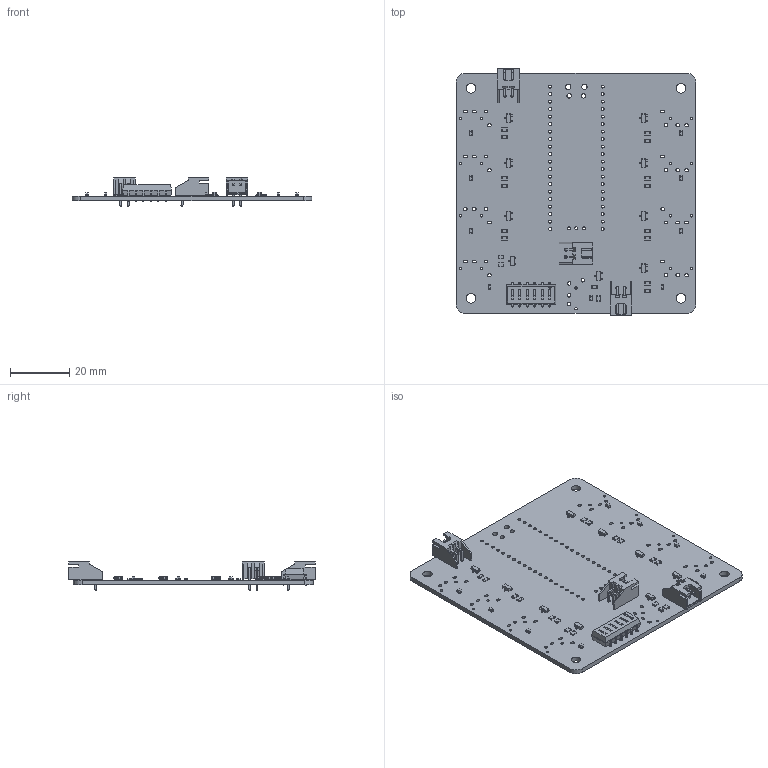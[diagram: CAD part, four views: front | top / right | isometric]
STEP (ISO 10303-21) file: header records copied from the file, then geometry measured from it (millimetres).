
FILE_DESCRIPTION(('KiCad electronic assembly'),'2;1');
FILE_NAME('Motherbuzz-S DIP.step','2024-12-31T19:02:52',('Pcbnew'),( 'Kicad'),'Open CASCADE STEP processor 7.8','KiCad to STEP converter' ,'Unknown');
FILE_SCHEMA(('AUTOMOTIVE_DESIGN { 1 0 10303 214 1 1 1 1 }'));
Length unit declared in the file: millimetre
Products named in the file (12): Motherbuzz-S DIP 1; SOT-23; SOT_23; R_0805_2012Metric; LED_0603_1608Metric; JST_XH_S2B-XH-A_1x02_P2.50mm_Horizontal; JST_S2B_XH_A; SW_DIP_SPSTx06_Slide_6.7x16.8mm_W7.62mm_P2.54mm_LowProfile; SW_DIP_SPSTx06_Slide_67x168mm_W762mm_P254mm_LowProfile; Motherbuzz-S DIP_PCB
Assembly tree (46 placements, depth 3):
  Motherbuzz-S DIP 1
    SOT-23  x9
      SOT_23
    R_0805_2012Metric  x18
      R_0805_2012Metric
    LED_0603_1608Metric  x9
      LED_0603_1608Metric
    JST_XH_S2B-XH-A_1x02_P2.50mm_Horizontal  x3
      JST_S2B_XH_A
    SW_DIP_SPSTx06_Slide_6.7x16.8mm_W7.62mm_P2.54mm_LowProfile
      SW_DIP_SPSTx06_Slide_67x168mm_W762mm_P254mm_LowProfile
    Motherbuzz-S DIP_PCB
Bounding box: 81.28 x 83.53 x 9.5 mm (x, y, z)
Volume: 11349.8 mm3; surface area: 16519.4 mm2
Topology: 41 solids, 41 shells, 2423 faces, 6286 edges, 3973 vertices
Faces by surface type: plane 1597, cylinder 547, bspline 279
Full cylindrical faces by diameter (mm): 0.8 x30, 1 x6, 1.02 x43, 1.5 x2, 1.8 x2, 3.2 x4
Entity records: 28215 total; most frequent: CARTESIAN_POINT 4412, ORIENTED_EDGE 4104, DIRECTION 3968, EDGE_CURVE 2052, LINE 1534, VECTOR 1534, VERTEX_POINT 1313, AXIS2_PLACEMENT_3D 1217
